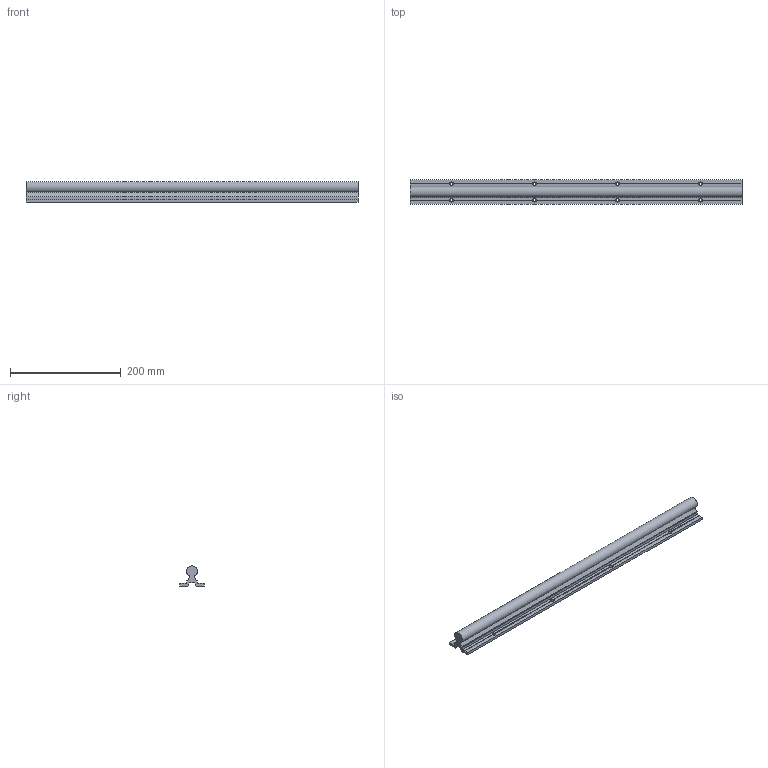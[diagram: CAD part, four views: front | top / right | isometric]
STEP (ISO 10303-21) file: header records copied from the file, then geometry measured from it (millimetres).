
FILE_DESCRIPTION(/* description */ (''),/* implementation_level */ '2;1');
FILE_NAME(/* name */ 'C:\Users\David\Desktop\stepFiles\Profilfuehrung\LFS20x600.stp',/* time_stamp */ '2018-06-24T15:21:54+02:00',/* author */ ('Buskamp'),/* organization */ (''),/* preprocessor_version */ 'ST-DEVELOPER v17',/* originating_system */ 'Autodesk Inventor 2019',/* authorisation */ '');
FILE_SCHEMA (('AUTOMOTIVE_DESIGN { 1 0 10303 214 3 1 1 }'));
Length unit declared in the file: millimetre
Products named in the file (1): Linearführung D20xvariabel
Bounding box: 600 x 45 x 37 mm (x, y, z)
Volume: 387656.8 mm3; surface area: 107212.7 mm2
Topology: 1 solids, 1 shells, 74 faces, 216 edges, 136 vertices
Faces by surface type: plane 49, cone 16, cylinder 9
Full cylindrical faces by diameter (mm): 5.5 x8
Entity records: 2481 total; most frequent: CARTESIAN_POINT 491, ORIENTED_EDGE 432, DIRECTION 408, EDGE_CURVE 216, AXIS2_PLACEMENT_3D 149, VERTEX_POINT 136, LINE 110, VECTOR 110
